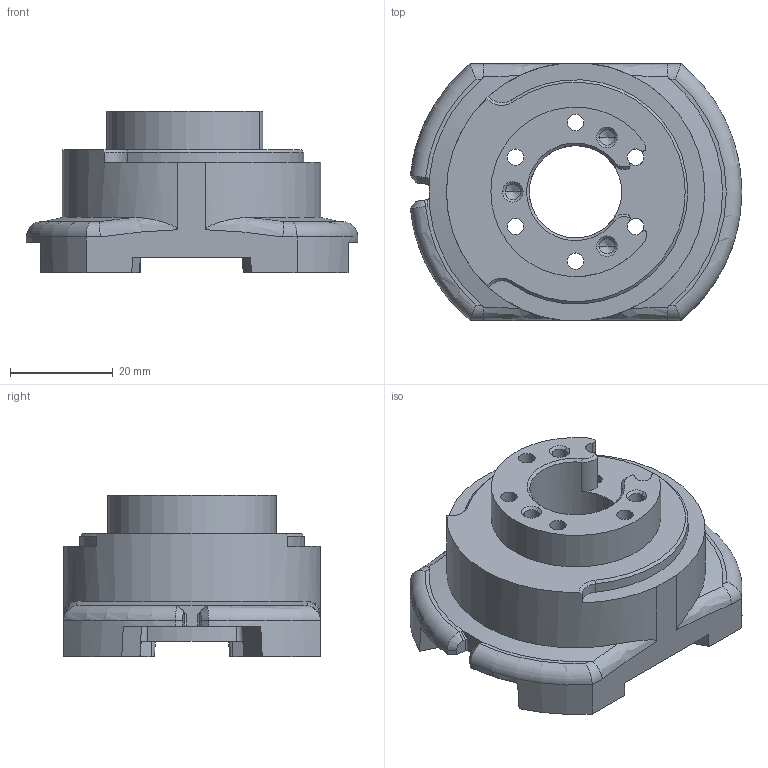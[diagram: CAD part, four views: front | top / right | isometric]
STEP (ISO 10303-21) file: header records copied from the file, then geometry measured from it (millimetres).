
FILE_DESCRIPTION((''),'2;1');
FILE_NAME('KD-C-501L_TOP_WRIST_ROTOR_1','2025-07-12T13:45:49',('Administrator'),(''),'CREO PARAMETRIC BY PTC INC, 2022073','CREO PARAMETRIC BY PTC INC, 2022073','');
FILE_SCHEMA(('CONFIG_CONTROL_DESIGN'));
Length unit declared in the file: millimetre
Products named in the file (1): KD-C-501L_TOP_WRIST_ROTOR_1
Bounding box: 64.54 x 50 x 31.5 mm (x, y, z)
Volume: 36254.3 mm3; surface area: 12982.3 mm2
Topology: 1 solids, 1 shells, 143 faces, 408 edges, 263 vertices
Faces by surface type: cylinder 63, cone 36, plane 33, bspline 6, torus 3, extrusion 2
Entity records: 5198 total; most frequent: CARTESIAN_POINT 1453, ORIENTED_EDGE 804, DIRECTION 763, EDGE_CURVE 402, AXIS2_PLACEMENT_3D 300, VERTEX_POINT 263, CIRCLE 165, VECTOR 163
